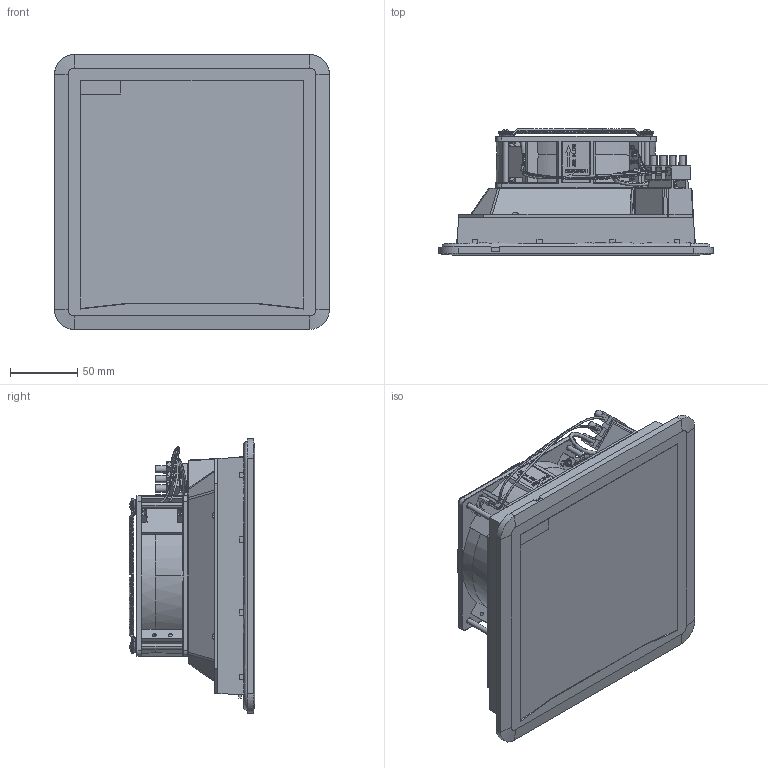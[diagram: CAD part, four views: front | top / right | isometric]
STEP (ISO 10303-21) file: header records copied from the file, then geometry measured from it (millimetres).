
FILE_DESCRIPTION(/* description */ (''),/* implementation_level */ '2;1');
FILE_NAME(/* name */ 'FPF13K~4',/* time_stamp */ '2019-06-25T11:13:31+02:00',/* author */ (''),/* organization */ (''),/* preprocessor_version */ 'ST-DEVELOPER v14',/* originating_system */ '',/* authorisation */ '');
FILE_SCHEMA (('CONFIG_CONTROL_DESIGN'));
Length unit declared in the file: millimetre
Products named in the file (1): Document
Bounding box: 204 x 93.5 x 204 mm (x, y, z)
Volume: 26827.2 mm3; surface area: 163799.8 mm2
Topology: 22 solids, 27 shells, 1371 faces, 3767 edges, 2463 vertices
Faces by surface type: plane 1003, bspline 368
Entity records: 75946 total; most frequent: CARTESIAN_POINT 51934, ORIENTED_EDGE 7357, EDGE_CURVE 3764, B_SPLINE_CURVE_WITH_KNOTS 2909, VERTEX_POINT 2463, EDGE_LOOP 1494, ADVANCED_FACE 1371, FACE_OUTER_BOUND 1371
